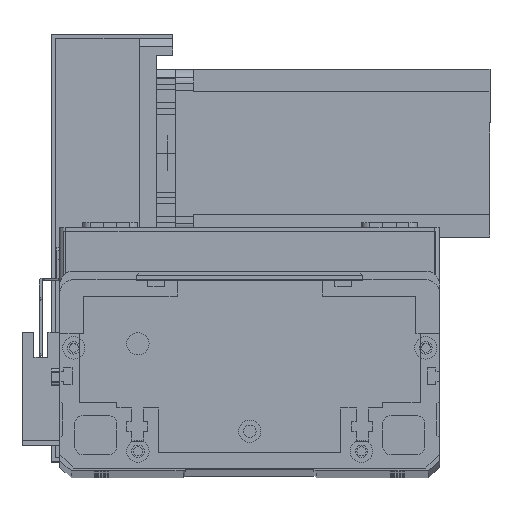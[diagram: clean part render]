
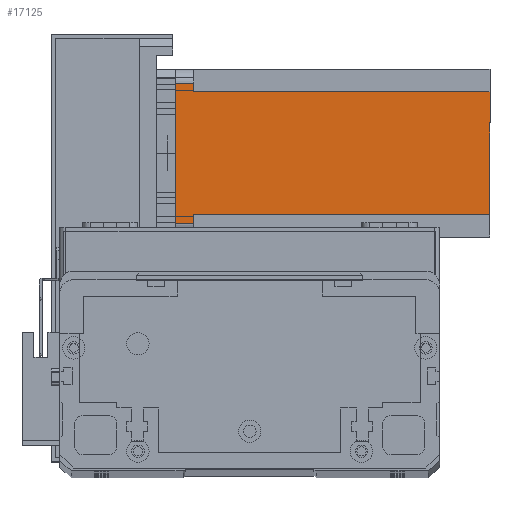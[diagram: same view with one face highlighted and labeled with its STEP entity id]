
A CAD part, top view. The second image highlights one B-rep face of the part: STEP entity #17125.
In plain terms, the highlighted planar face has unit normal (0, 0, 1) as drawn and (0, -1, 0) by its records, which use the part's own axes.
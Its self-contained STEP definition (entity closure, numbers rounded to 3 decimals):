
#68 = EDGE_LOOP ( 'NONE', ( #4212, #9325, #15744, #27411, #27752, #9372, #8286, #18959 ) ) ;
#100 = LINE ( 'NONE', #2962, #23793 ) ;
#174 = CARTESIAN_POINT ( 'NONE',  ( 52., 0., -112.5 ) ) ;
#781 = LINE ( 'NONE', #10952, #24444 ) ;
#998 = VERTEX_POINT ( 'NONE', #3676 ) ;
#1179 = EDGE_CURVE ( 'NONE', #18188, #4603, #8036, .T. ) ;
#1641 = PLANE ( 'NONE',  #4027 ) ;
#1720 = DIRECTION ( 'NONE',  ( 0., 0., -1. ) ) ;
#2403 = LINE ( 'NONE', #28434, #7117 ) ;
#2903 = EDGE_CURVE ( 'NONE', #21969, #21862, #6827, .T. ) ;
#2962 = CARTESIAN_POINT ( 'NONE',  ( 0., 0., -112.5 ) ) ;
#3161 = VERTEX_POINT ( 'NONE', #27003 ) ;
#3676 = CARTESIAN_POINT ( 'NONE',  ( 5., 0., 0. ) ) ;
#3761 = LINE ( 'NONE', #9177, #20560 ) ;
#3981 = DIRECTION ( 'NONE',  ( 0., -1., 0. ) ) ;
#4027 = AXIS2_PLACEMENT_3D ( 'NONE', #17625, #3981, #19968 ) ;
#4212 = ORIENTED_EDGE ( 'NONE', *, *, #2903, .T. ) ;
#4603 = VERTEX_POINT ( 'NONE', #6620 ) ;
#5053 = LINE ( 'NONE', #174, #5807 ) ;
#5807 = VECTOR ( 'NONE', #28782, 1000. ) ;
#5879 = EDGE_CURVE ( 'NONE', #21969, #17994, #5053, .T. ) ;
#6620 = CARTESIAN_POINT ( 'NONE',  ( 5., 0., -6.5 ) ) ;
#6827 = LINE ( 'NONE', #23512, #18938 ) ;
#7117 = VECTOR ( 'NONE', #21634, 1000. ) ;
#8036 = LINE ( 'NONE', #24699, #19413 ) ;
#8286 = ORIENTED_EDGE ( 'NONE', *, *, #15104, .T. ) ;
#9177 = CARTESIAN_POINT ( 'NONE',  ( 8., 0., -112.5 ) ) ;
#9325 = ORIENTED_EDGE ( 'NONE', *, *, #14712, .T. ) ;
#9372 = ORIENTED_EDGE ( 'NONE', *, *, #9565, .F. ) ;
#9565 = EDGE_CURVE ( 'NONE', #13749, #18188, #3761, .T. ) ;
#10142 = EDGE_CURVE ( 'NONE', #998, #4603, #781, .T. ) ;
#10952 = CARTESIAN_POINT ( 'NONE',  ( 5., 0., -112.5 ) ) ;
#13749 = VERTEX_POINT ( 'NONE', #24227 ) ;
#13767 = DIRECTION ( 'NONE',  ( 0., 0., 1. ) ) ;
#14565 = DIRECTION ( 'NONE',  ( 1., 0., 0. ) ) ;
#14712 = EDGE_CURVE ( 'NONE', #21862, #3161, #22400, .T. ) ;
#14991 = CARTESIAN_POINT ( 'NONE',  ( 55., 0., -112.5 ) ) ;
#15104 = EDGE_CURVE ( 'NONE', #13749, #17994, #100, .T. ) ;
#15306 = CARTESIAN_POINT ( 'NONE',  ( 55., 0., -6.5 ) ) ;
#15744 = ORIENTED_EDGE ( 'NONE', *, *, #24465, .F. ) ;
#17125 = ADVANCED_FACE ( 'NONE', ( #21948 ), #1641, .T. ) ;
#17625 = CARTESIAN_POINT ( 'NONE',  ( 0., 0., -112.5 ) ) ;
#17994 = VERTEX_POINT ( 'NONE', #27838 ) ;
#18188 = VERTEX_POINT ( 'NONE', #24105 ) ;
#18938 = VECTOR ( 'NONE', #22752, 1000. ) ;
#18959 = ORIENTED_EDGE ( 'NONE', *, *, #5879, .F. ) ;
#19413 = VECTOR ( 'NONE', #24513, 1000. ) ;
#19968 = DIRECTION ( 'NONE',  ( 0., 0., -1. ) ) ;
#20560 = VECTOR ( 'NONE', #13767, 1000. ) ;
#21634 = DIRECTION ( 'NONE',  ( 1., 0., 0. ) ) ;
#21862 = VERTEX_POINT ( 'NONE', #15306 ) ;
#21948 = FACE_OUTER_BOUND ( 'NONE', #68, .T. ) ;
#21969 = VERTEX_POINT ( 'NONE', #24695 ) ;
#22400 = LINE ( 'NONE', #14991, #23818 ) ;
#22752 = DIRECTION ( 'NONE',  ( 1., 0., 0. ) ) ;
#23512 = CARTESIAN_POINT ( 'NONE',  ( 52., 0., -6.5 ) ) ;
#23793 = VECTOR ( 'NONE', #14565, 1000. ) ;
#23818 = VECTOR ( 'NONE', #28503, 1000. ) ;
#24105 = CARTESIAN_POINT ( 'NONE',  ( 8., 0., -6.5 ) ) ;
#24227 = CARTESIAN_POINT ( 'NONE',  ( 8., 0., -112.5 ) ) ;
#24444 = VECTOR ( 'NONE', #1720, 1000. ) ;
#24465 = EDGE_CURVE ( 'NONE', #998, #3161, #2403, .T. ) ;
#24513 = DIRECTION ( 'NONE',  ( -1., 0., 0. ) ) ;
#24695 = CARTESIAN_POINT ( 'NONE',  ( 52., 0., -6.5 ) ) ;
#24699 = CARTESIAN_POINT ( 'NONE',  ( 8., 0., -6.5 ) ) ;
#27003 = CARTESIAN_POINT ( 'NONE',  ( 55., 0., 0. ) ) ;
#27411 = ORIENTED_EDGE ( 'NONE', *, *, #10142, .T. ) ;
#27752 = ORIENTED_EDGE ( 'NONE', *, *, #1179, .F. ) ;
#27838 = CARTESIAN_POINT ( 'NONE',  ( 52., 0., -112.5 ) ) ;
#28434 = CARTESIAN_POINT ( 'NONE',  ( 0., 0., 0. ) ) ;
#28503 = DIRECTION ( 'NONE',  ( 0., 0., 1. ) ) ;
#28782 = DIRECTION ( 'NONE',  ( 0., 0., -1. ) ) ;
